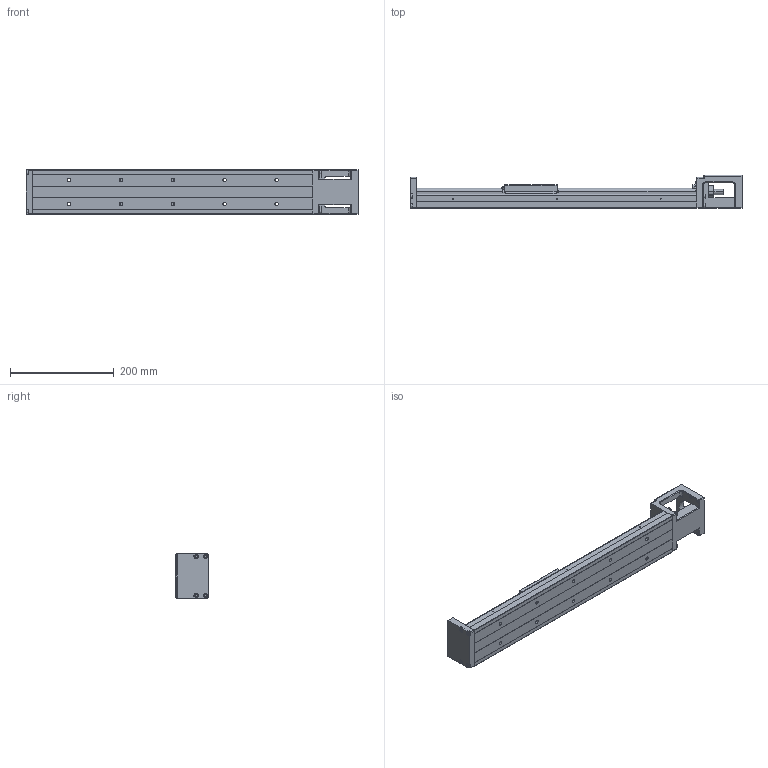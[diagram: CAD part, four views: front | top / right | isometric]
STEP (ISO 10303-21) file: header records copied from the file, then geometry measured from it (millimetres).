
FILE_DESCRIPTION (( 'STEP AP203' ), '1' );
FILE_NAME ('HKK86D20C-640A1-F0.stp', '2021-11-25T03:52:32', ( '' ), ( '' ), 'SwSTEP 2.0', 'SolidWorks 2018', '' );
FILE_SCHEMA (( 'CONFIG_CONTROL_DESIGN' ));
Length unit declared in the file: millimetre
Products named in the file (1): HKK86D20C-640A1-F0
Bounding box: 640 x 64 x 86 mm (x, y, z)
Volume: 1260388 mm3; surface area: 257963.4 mm2
Topology: 2 solids, 2 shells, 603 faces, 1605 edges, 1010 vertices
Faces by surface type: plane 293, cylinder 223, cone 70, sphere 9, torus 8
Entity records: 18853 total; most frequent: CARTESIAN_POINT 3735, DIRECTION 3181, ORIENTED_EDGE 3094, EDGE_CURVE 1547, AXIS2_PLACEMENT_3D 1095, VERTEX_POINT 1006, VECTOR 991, LINE 991
